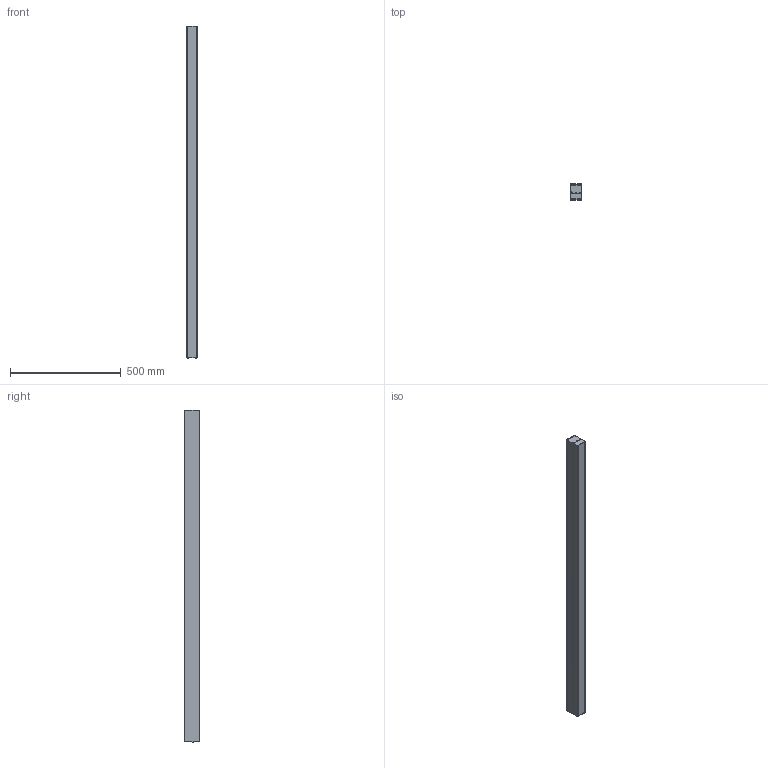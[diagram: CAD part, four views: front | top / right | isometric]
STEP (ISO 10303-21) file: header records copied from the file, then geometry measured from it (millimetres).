
FILE_DESCRIPTION(('STEP AP203'), '1');
FILE_NAME('MIKKO LONG', '', ('UNSPECIFIED'), ('UNSPECIFIED'), 'ASCON STEP Converter 1.6', 'ASCON Math Kernel', '');
FILE_SCHEMA(('CONFIG_CONTROL_DESIGN'));
Length unit declared in the file: millimetre
Assembly tree (4 placements, depth 2):
  (unnamed)
    (unnamed)  x4
Bounding box: 50 x 70 x 1502.3 mm (x, y, z)
Volume: 657673.7 mm3; surface area: 1011259.8 mm2
Topology: 9 solids, 9 shells, 336 faces, 925 edges, 620 vertices
Faces by surface type: plane 160, cylinder 138, bspline 16, cone 12, torus 10
Full cylindrical faces by diameter (mm): 2.9 x4, 6.3 x4, 8 x1, 10 x2, 14 x2
Entity records: 10797 total; most frequent: CARTESIAN_POINT 1712, DIRECTION 1524, ORIENTED_EDGE 1442, EDGE_CURVE 721, AXIS2_PLACEMENT_3D 547, VERTEX_POINT 489, LINE 430, VECTOR 430
